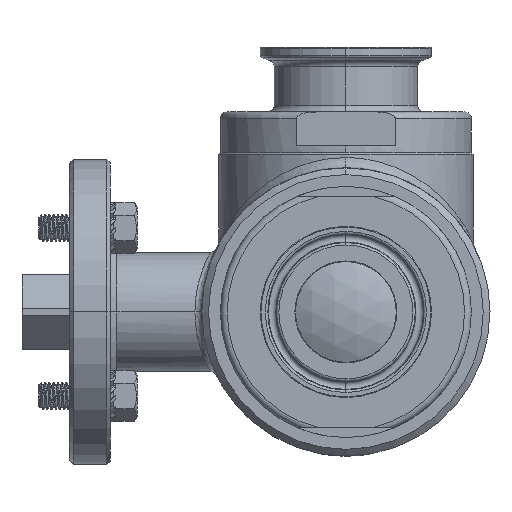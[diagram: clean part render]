
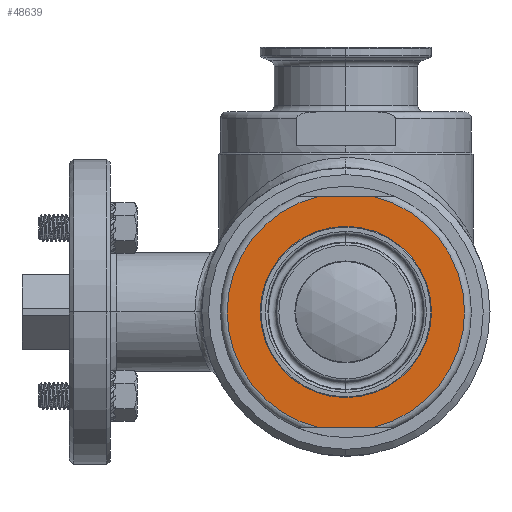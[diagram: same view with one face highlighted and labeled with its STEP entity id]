
A CAD part, left-side view. The second image highlights one B-rep face of the part: STEP entity #48639.
In plain terms, the highlighted planar face has unit normal (-1, 0, 0).
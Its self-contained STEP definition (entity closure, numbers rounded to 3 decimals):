
#7614=CARTESIAN_POINT('',(-59.,8.307,34.));
#7656=CARTESIAN_POINT('',(-59.,-8.307,-34.));
#7719=CARTESIAN_POINT('',(-59.,0.,0.));
#7720=DIRECTION('',(1.,0.,0.));
#7721=DIRECTION('',(0.,-0.237,0.971));
#7722=AXIS2_PLACEMENT_3D('',#7719,#7720,#7721);
#7727=DIRECTION('',(0.,-1.,0.));
#7728=VECTOR('',#7727,16.613);
#7729=CARTESIAN_POINT('',(-59.,8.307,-34.));
#7730=LINE('',#7729,#7728);
#7734=CARTESIAN_POINT('',(-59.,0.,0.));
#7735=DIRECTION('',(1.,0.,0.));
#7736=DIRECTION('',(0.,0.237,-0.971));
#7737=AXIS2_PLACEMENT_3D('',#7734,#7735,#7736);
#7742=DIRECTION('',(0.,1.,0.));
#7743=VECTOR('',#7742,16.613);
#7744=CARTESIAN_POINT('',(-59.,-8.307,34.));
#7745=LINE('',#7744,#7743);
#7749=CARTESIAN_POINT('',(-59.,0.,0.));
#7750=DIRECTION('',(1.,0.,0.));
#7751=DIRECTION('',(0.,0.,-1.));
#7752=AXIS2_PLACEMENT_3D('',#7749,#7750,#7751);
#7765=CARTESIAN_POINT('',(-59.,0.,0.));
#7766=DIRECTION('',(-1.,0.,0.));
#7767=DIRECTION('',(0.,0.,-1.));
#7768=AXIS2_PLACEMENT_3D('',#7765,#7766,#7767);
#40768=CARTESIAN_POINT('',(-59.,0.,-23.15));
#40769=CARTESIAN_POINT('',(-59.,0.,23.15));
#40770=VERTEX_POINT('',#40768);
#40771=VERTEX_POINT('',#40769);
#40825=VERTEX_POINT('',#7656);
#40826=CARTESIAN_POINT('',(-59.,-8.307,34.));
#40827=VERTEX_POINT('',#40826);
#40830=VERTEX_POINT('',#7614);
#40831=CARTESIAN_POINT('',(-59.,8.307,-34.));
#40832=VERTEX_POINT('',#40831);
#48622=CARTESIAN_POINT('',(-59.,0.,0.));
#48623=DIRECTION('',(-1.,0.,0.));
#48624=DIRECTION('',(0.,0.,1.));
#48625=AXIS2_PLACEMENT_3D('',#48622,#48623,#48624);
#48626=PLANE('',#48625);
#48627=ORIENTED_EDGE('',*,*,#48574,.T.);
#48628=ORIENTED_EDGE('',*,*,#48593,.F.);
#48629=ORIENTED_EDGE('',*,*,#48615,.T.);
#48630=ORIENTED_EDGE('',*,*,#48557,.F.);
#48631=EDGE_LOOP('',(#48627,#48628,#48629,#48630));
#48632=FACE_OUTER_BOUND('',#48631,.F.);
#48634=ORIENTED_EDGE('',*,*,#48633,.F.);
#48636=ORIENTED_EDGE('',*,*,#48635,.T.);
#48637=EDGE_LOOP('',(#48634,#48636));
#48638=FACE_BOUND('',#48637,.F.);
#48639=ADVANCED_FACE('',(#48632,#48638),#48626,.T.);
#7723=CIRCLE('',#7722,35.);
#7738=CIRCLE('',#7737,35.);
#7753=CIRCLE('',#7752,23.15);
#7769=CIRCLE('',#7768,23.15);
#48557=EDGE_CURVE('',#40827,#40830,#7745,.T.);
#48574=EDGE_CURVE('',#40827,#40825,#7723,.T.);
#48593=EDGE_CURVE('',#40832,#40825,#7730,.T.);
#48615=EDGE_CURVE('',#40832,#40830,#7738,.T.);
#48633=EDGE_CURVE('',#40770,#40771,#7753,.T.);
#48635=EDGE_CURVE('',#40770,#40771,#7769,.T.);
